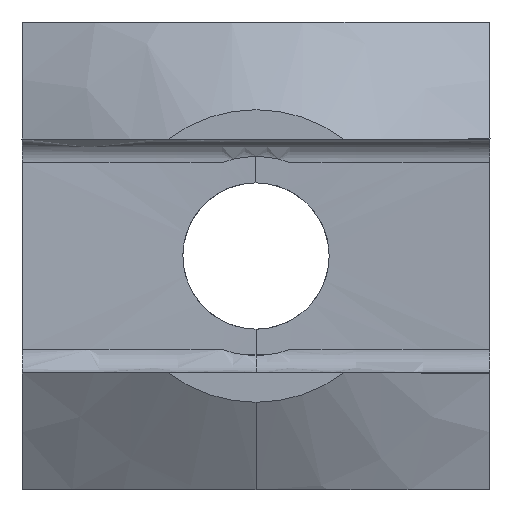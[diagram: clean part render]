
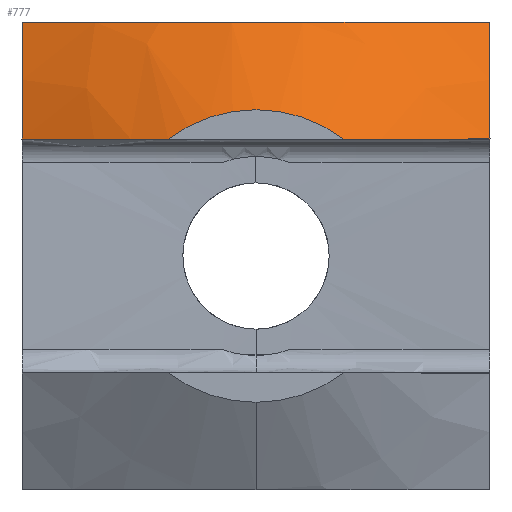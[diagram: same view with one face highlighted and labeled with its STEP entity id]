
A CAD part, left-side view. The second image highlights one B-rep face of the part: STEP entity #777.
In plain terms, the highlighted conical face has half-angle 60 degrees and reference radius 11.352 mm.
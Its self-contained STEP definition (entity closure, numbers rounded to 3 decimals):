
#27 = DIRECTION ( 'NONE',  ( 0., 0., -1. ) ) ;
#31 = EDGE_CURVE ( 'NONE', #1276, #489, #287, .T. ) ;
#46 = FACE_OUTER_BOUND ( 'NONE', #1293, .T. ) ;
#54 = EDGE_CURVE ( 'NONE', #1276, #473, #84, .T. ) ;
#56 = DIRECTION ( 'NONE',  ( 1., 0., 0. ) ) ;
#65 = CARTESIAN_POINT ( 'NONE',  ( -9.325, 4.705, 4. ) ) ;
#74 = CARTESIAN_POINT ( 'NONE',  ( -7.336, 8., 5.357 ) ) ;
#79 = CARTESIAN_POINT ( 'NONE',  ( -9.681, 3.861, 4. ) ) ;
#84 = B_SPLINE_CURVE_WITH_KNOTS ( 'NONE', 3,
 ( #279, #635, #1160, #1399, #65, #79, #1381, #194 ),
 .UNSPECIFIED., .F., .F.,
 ( 4, 2, 2, 4 ),
 ( 0., 0.003, 0.004, 0.005 ),
 .UNSPECIFIED. ) ;
#114 = CARTESIAN_POINT ( 'NONE',  ( -6.878, 6.719, 8. ) ) ;
#127 = CARTESIAN_POINT ( 'NONE',  ( -7.348, 5.424, 8. ) ) ;
#142 = CARTESIAN_POINT ( 'NONE',  ( -6.355, -8., 8. ) ) ;
#145 = CARTESIAN_POINT ( 'NONE',  ( -10., -3., 4. ) ) ;
#149 = CARTESIAN_POINT ( 'NONE',  ( -7.53, -4.739, 8. ) ) ;
#155 = AXIS2_PLACEMENT_3D ( 'NONE', #997, #780, #27 ) ;
#180 = CARTESIAN_POINT ( 'NONE',  ( -7.546, 8., 4.684 ) ) ;
#187 = ORIENTED_EDGE ( 'NONE', *, *, #31, .F. ) ;
#188 = CARTESIAN_POINT ( 'NONE',  ( -6.355, 8., 8. ) ) ;
#194 = CARTESIAN_POINT ( 'NONE',  ( -10., 3., 4. ) ) ;
#261 = CARTESIAN_POINT ( 'NONE',  ( -6.355, -8., 8. ) ) ;
#266 = CARTESIAN_POINT ( 'NONE',  ( -8.016, 2.759, 8. ) ) ;
#278 = ORIENTED_EDGE ( 'NONE', *, *, #1012, .F. ) ;
#279 = CARTESIAN_POINT ( 'NONE',  ( -7.723, 8., 4. ) ) ;
#284 = CARTESIAN_POINT ( 'NONE',  ( -7.336, -8., 5.357 ) ) ;
#287 = B_SPLINE_CURVE_WITH_KNOTS ( 'NONE', 3,
 ( #621, #180, #74, #950, #521, #188 ),
 .UNSPECIFIED., .F., .F.,
 ( 4, 2, 4 ),
 ( 0., 0.002, 0.004 ),
 .UNSPECIFIED. ) ;
#291 = VERTEX_POINT ( 'NONE', #145 ) ;
#296 = ORIENTED_EDGE ( 'NONE', *, *, #54, .T. ) ;
#308 = B_SPLINE_CURVE_WITH_KNOTS ( 'NONE', 3,
 ( #690, #114, #127, #802, #266, #1131, #371, #1021, #924, #595, #915, #1360, #377, #149, #598, #1366, #493, #142 ),
 .UNSPECIFIED., .F., .F.,
 ( 4, 2, 2, 2, 2, 2, 2, 2, 4 ),
 ( 0., 0.004, 0.006, 0.007, 0.008, 0.01, 0.012, 0.014, 0.016 ),
 .UNSPECIFIED. ) ;
#324 = EDGE_CURVE ( 'NONE', #291, #401, #1195, .T. ) ;
#354 = CARTESIAN_POINT ( 'NONE',  ( -8.143, -7.185, 4. ) ) ;
#371 = CARTESIAN_POINT ( 'NONE',  ( -8.204, 1.384, 8. ) ) ;
#377 = CARTESIAN_POINT ( 'NONE',  ( -7.88, -3.4, 8. ) ) ;
#389 = EDGE_CURVE ( 'NONE', #473, #291, #1422, .T. ) ;
#401 = VERTEX_POINT ( 'NONE', #1380 ) ;
#473 = VERTEX_POINT ( 'NONE', #1191 ) ;
#489 = VERTEX_POINT ( 'NONE', #952 ) ;
#493 = CARTESIAN_POINT ( 'NONE',  ( -6.617, -7.358, 8. ) ) ;
#521 = CARTESIAN_POINT ( 'NONE',  ( -6.622, 8., 7.347 ) ) ;
#583 = CARTESIAN_POINT ( 'NONE',  ( -9.137, -5.122, 4. ) ) ;
#587 = CARTESIAN_POINT ( 'NONE',  ( -9.681, -3.861, 4. ) ) ;
#595 = CARTESIAN_POINT ( 'NONE',  ( -8.268, -0.688, 8. ) ) ;
#598 = CARTESIAN_POINT ( 'NONE',  ( -7.322, -5.402, 8. ) ) ;
#606 = CARTESIAN_POINT ( 'NONE',  ( -10., 0., 0. ) ) ;
#615 = AXIS2_PLACEMENT_3D ( 'NONE', #606, #56, #1263 ) ;
#621 = CARTESIAN_POINT ( 'NONE',  ( -7.723, 8., 4. ) ) ;
#635 = CARTESIAN_POINT ( 'NONE',  ( -8.143, 7.185, 4. ) ) ;
#690 = CARTESIAN_POINT ( 'NONE',  ( -6.355, 8., 8. ) ) ;
#719 = CONICAL_SURFACE ( 'NONE', #155, 11.352, 1.047 ) ;
#777 = ADVANCED_FACE ( 'NONE', ( #46 ), #719, .T. ) ;
#780 = DIRECTION ( 'NONE',  ( 1., 0., 0. ) ) ;
#802 = CARTESIAN_POINT ( 'NONE',  ( -7.873, 3.431, 8. ) ) ;
#837 = EDGE_CURVE ( 'NONE', #489, #962, #308, .T. ) ;
#887 = CARTESIAN_POINT ( 'NONE',  ( -7.723, 8., 4. ) ) ;
#899 = ORIENTED_EDGE ( 'NONE', *, *, #324, .T. ) ;
#902 = CARTESIAN_POINT ( 'NONE',  ( -7.723, -8., 4. ) ) ;
#915 = CARTESIAN_POINT ( 'NONE',  ( -8.216, -1.371, 8. ) ) ;
#921 = CARTESIAN_POINT ( 'NONE',  ( -8.555, -6.367, 4. ) ) ;
#924 = CARTESIAN_POINT ( 'NONE',  ( -8.268, 0.344, 8. ) ) ;
#950 = CARTESIAN_POINT ( 'NONE',  ( -6.874, 8., 6.688 ) ) ;
#952 = CARTESIAN_POINT ( 'NONE',  ( -6.355, 8., 8. ) ) ;
#962 = VERTEX_POINT ( 'NONE', #261 ) ;
#997 = CARTESIAN_POINT ( 'NONE',  ( -6.333, 0., 0. ) ) ;
#1012 = EDGE_CURVE ( 'NONE', #962, #401, #1384, .T. ) ;
#1021 = CARTESIAN_POINT ( 'NONE',  ( -8.255, 0.69, 8. ) ) ;
#1044 = ORIENTED_EDGE ( 'NONE', *, *, #389, .T. ) ;
#1053 = CARTESIAN_POINT ( 'NONE',  ( -7.546, -8., 4.684 ) ) ;
#1131 = CARTESIAN_POINT ( 'NONE',  ( -8.165, 1.731, 8. ) ) ;
#1152 = CARTESIAN_POINT ( 'NONE',  ( -6.874, -8., 6.688 ) ) ;
#1160 = CARTESIAN_POINT ( 'NONE',  ( -8.555, 6.367, 4. ) ) ;
#1191 = CARTESIAN_POINT ( 'NONE',  ( -10., 3., 4. ) ) ;
#1195 = B_SPLINE_CURVE_WITH_KNOTS ( 'NONE', 3,
 ( #1351, #1249, #587, #1250, #583, #921, #354, #902 ),
 .UNSPECIFIED., .F., .F.,
 ( 4, 2, 2, 4 ),
 ( 0., 0.001, 0.003, 0.005 ),
 .UNSPECIFIED. ) ;
#1249 = CARTESIAN_POINT ( 'NONE',  ( -9.849, -3.435, 4. ) ) ;
#1250 = CARTESIAN_POINT ( 'NONE',  ( -9.325, -4.705, 4. ) ) ;
#1263 = DIRECTION ( 'NONE',  ( 0., 0., -1. ) ) ;
#1270 = CARTESIAN_POINT ( 'NONE',  ( -7.723, -8., 4. ) ) ;
#1276 = VERTEX_POINT ( 'NONE', #887 ) ;
#1282 = CARTESIAN_POINT ( 'NONE',  ( -6.622, -8., 7.347 ) ) ;
#1293 = EDGE_LOOP ( 'NONE', ( #296, #1044, #899, #278, #1313, #187 ) ) ;
#1313 = ORIENTED_EDGE ( 'NONE', *, *, #837, .F. ) ;
#1351 = CARTESIAN_POINT ( 'NONE',  ( -10., -3., 4. ) ) ;
#1360 = CARTESIAN_POINT ( 'NONE',  ( -8.022, -2.727, 8. ) ) ;
#1366 = CARTESIAN_POINT ( 'NONE',  ( -6.866, -6.711, 8. ) ) ;
#1373 = CARTESIAN_POINT ( 'NONE',  ( -6.355, -8., 8. ) ) ;
#1380 = CARTESIAN_POINT ( 'NONE',  ( -7.723, -8., 4. ) ) ;
#1381 = CARTESIAN_POINT ( 'NONE',  ( -9.849, 3.435, 4. ) ) ;
#1384 = B_SPLINE_CURVE_WITH_KNOTS ( 'NONE', 3,
 ( #1373, #1282, #1152, #284, #1053, #1270 ),
 .UNSPECIFIED., .F., .F.,
 ( 4, 2, 4 ),
 ( 0., 0.002, 0.004 ),
 .UNSPECIFIED. ) ;
#1399 = CARTESIAN_POINT ( 'NONE',  ( -9.137, 5.122, 4. ) ) ;
#1422 = CIRCLE ( 'NONE', #615, 5. ) ;
